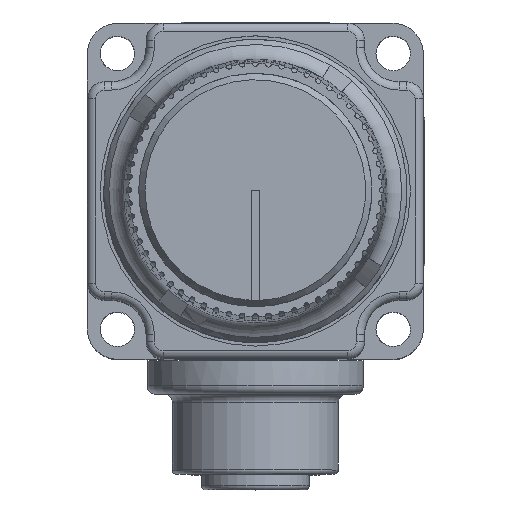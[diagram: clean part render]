
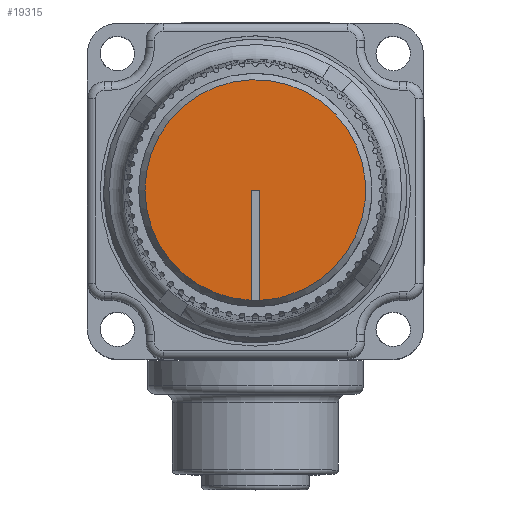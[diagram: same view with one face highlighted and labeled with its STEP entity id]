
A CAD part, top view. The second image highlights one B-rep face of the part: STEP entity #19315.
In plain terms, the highlighted planar face has unit normal (0, 0, 1).
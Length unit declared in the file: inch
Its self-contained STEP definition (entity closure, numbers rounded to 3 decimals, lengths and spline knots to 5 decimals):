
#975=PLANE('',#20954);
#1823=FACE_OUTER_BOUND('',#2951,.T.);
#2951=EDGE_LOOP('',(#15256,#15257,#15258,#15259,#15260));
#3829=CIRCLE('',#20955,0.4);
#3830=CIRCLE('',#20956,0.4);
#5409=LINE('',#33119,#6788);
#5410=LINE('',#33125,#6789);
#5411=LINE('',#33126,#6790);
#6788=VECTOR('',#25169,0.3937);
#6789=VECTOR('',#25174,0.3937);
#6790=VECTOR('',#25175,0.3937);
#8380=VERTEX_POINT('',#33117);
#8381=VERTEX_POINT('',#33118);
#8382=VERTEX_POINT('',#33120);
#8383=VERTEX_POINT('',#33122);
#8384=VERTEX_POINT('',#33124);
#10781=EDGE_CURVE('',#8380,#8381,#5409,.T.);
#10782=EDGE_CURVE('',#8381,#8382,#3829,.T.);
#10783=EDGE_CURVE('',#8382,#8383,#3830,.T.);
#10784=EDGE_CURVE('',#8383,#8384,#5410,.T.);
#10785=EDGE_CURVE('',#8384,#8380,#5411,.T.);
#15256=ORIENTED_EDGE('',*,*,#10781,.T.);
#15257=ORIENTED_EDGE('',*,*,#10782,.T.);
#15258=ORIENTED_EDGE('',*,*,#10783,.T.);
#15259=ORIENTED_EDGE('',*,*,#10784,.T.);
#15260=ORIENTED_EDGE('',*,*,#10785,.T.);
#19315=ADVANCED_FACE('',(#1823),#975,.T.);
#20954=AXIS2_PLACEMENT_3D('',#33116,#25167,#25168);
#20955=AXIS2_PLACEMENT_3D('',#33121,#25170,#25171);
#20956=AXIS2_PLACEMENT_3D('',#33123,#25172,#25173);
#25167=DIRECTION('center_axis',(0.,0.,1.));
#25168=DIRECTION('ref_axis',(1.,0.,0.));
#25169=DIRECTION('',(0.,-1.,0.));
#25170=DIRECTION('center_axis',(0.,0.,
1.));
#25171=DIRECTION('ref_axis',(0.325,0.946,0.));
#25172=DIRECTION('center_axis',(0.,0.,
1.));
#25173=DIRECTION('ref_axis',(0.325,0.946,0.));
#25174=DIRECTION('',(0.,1.,0.));
#25175=DIRECTION('',(1.,0.,0.));
#33116=CARTESIAN_POINT('Origin',(-0.61377,-0.16177,
1.82375));
#33117=CARTESIAN_POINT('',(-0.59877,0.23835,1.82375));
#33118=CARTESIAN_POINT('',(-0.59877,-0.16137,1.82375));
#33119=CARTESIAN_POINT('',(-0.59877,0.23835,1.82375));
#33120=CARTESIAN_POINT('',(-0.49959,-0.14501,1.82375));
#33121=CARTESIAN_POINT('Origin',(-0.61377,0.23835,1.82375));
#33122=CARTESIAN_POINT('',(-0.62877,-0.16137,1.82375));
#33123=CARTESIAN_POINT('Origin',(-0.61377,0.23835,1.82375));
#33124=CARTESIAN_POINT('',(-0.62877,0.23835,1.82375));
#33125=CARTESIAN_POINT('',(-0.62877,-0.16137,1.82375));
#33126=CARTESIAN_POINT('',(-0.62877,0.23835,1.82375));
